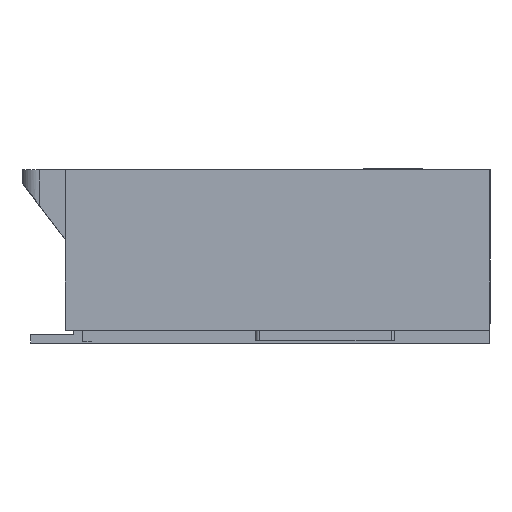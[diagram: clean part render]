
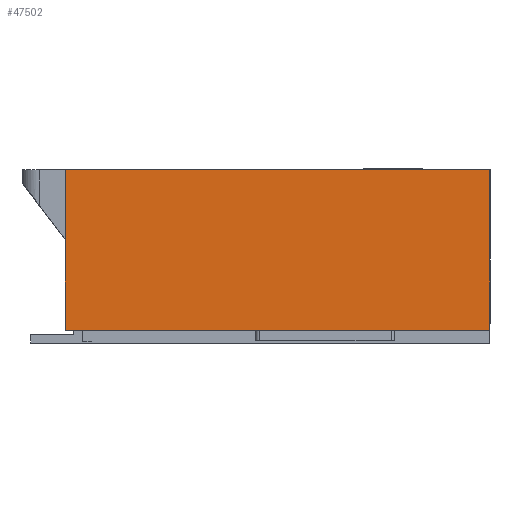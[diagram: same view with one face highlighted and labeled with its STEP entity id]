
A CAD part, left-side view. The second image highlights one B-rep face of the part: STEP entity #47502.
In plain terms, the highlighted planar face has unit normal (-1, 0, 0).
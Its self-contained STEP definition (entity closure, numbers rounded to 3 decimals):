
#3710 = ORIENTED_EDGE ( 'NONE', *, *, #21399, .T. ) ;
#4432 = ORIENTED_EDGE ( 'NONE', *, *, #52382, .T. ) ;
#4540 = CARTESIAN_POINT ( 'NONE',  ( -9.25, -0.25, 0. ) ) ;
#4967 = EDGE_CURVE ( 'NONE', #36375, #33015, #31126, .T. ) ;
#6600 = CARTESIAN_POINT ( 'NONE',  ( -9.25, -5.15, 2. ) ) ;
#7841 = CARTESIAN_POINT ( 'NONE',  ( -9.25, -5.15, 2. ) ) ;
#7972 = FACE_OUTER_BOUND ( 'NONE', #13871, .T. ) ;
#7983 = LINE ( 'NONE', #4540, #50846 ) ;
#8878 = DIRECTION ( 'NONE',  ( 0., 0., 1. ) ) ;
#9971 = DIRECTION ( 'NONE',  ( 1., 0., 0. ) ) ;
#13871 = EDGE_LOOP ( 'NONE', ( #4432, #24808, #3710, #14890 ) ) ;
#14123 = CARTESIAN_POINT ( 'NONE',  ( -9.25, -5.15, 0.15 ) ) ;
#14492 = CARTESIAN_POINT ( 'NONE',  ( -9.25, -0.25, 0.15 ) ) ;
#14890 = ORIENTED_EDGE ( 'NONE', *, *, #48203, .T. ) ;
#17627 = PLANE ( 'NONE',  #27457 ) ;
#18256 = CARTESIAN_POINT ( 'NONE',  ( -9.25, -5.15, 0. ) ) ;
#21399 = EDGE_CURVE ( 'NONE', #33015, #23725, #35017, .T. ) ;
#23725 = VERTEX_POINT ( 'NONE', #49270 ) ;
#24271 = CARTESIAN_POINT ( 'NONE',  ( -9.25, -0.25, 0.15 ) ) ;
#24808 = ORIENTED_EDGE ( 'NONE', *, *, #4967, .T. ) ;
#27457 = AXIS2_PLACEMENT_3D ( 'NONE', #31384, #9971, #53514 ) ;
#30542 = DIRECTION ( 'NONE',  ( 0., 0., -1. ) ) ;
#31126 = LINE ( 'NONE', #18256, #52100 ) ;
#31384 = CARTESIAN_POINT ( 'NONE',  ( -9.25, 0., 0. ) ) ;
#33015 = VERTEX_POINT ( 'NONE', #6600 ) ;
#35017 = LINE ( 'NONE', #7841, #45416 ) ;
#36375 = VERTEX_POINT ( 'NONE', #14123 ) ;
#37525 = DIRECTION ( 'NONE',  ( 0., -1., 0. ) ) ;
#37641 = VERTEX_POINT ( 'NONE', #24271 ) ;
#44343 = DIRECTION ( 'NONE',  ( 0., 1., 0. ) ) ;
#45127 = LINE ( 'NONE', #14492, #51529 ) ;
#45416 = VECTOR ( 'NONE', #44343, 1000. ) ;
#47502 = ADVANCED_FACE ( 'NONE', ( #7972 ), #17627, .F. ) ;
#48203 = EDGE_CURVE ( 'NONE', #23725, #37641, #7983, .T. ) ;
#49270 = CARTESIAN_POINT ( 'NONE',  ( -9.25, -0.25, 2. ) ) ;
#50846 = VECTOR ( 'NONE', #30542, 1000. ) ;
#51529 = VECTOR ( 'NONE', #37525, 1000. ) ;
#52100 = VECTOR ( 'NONE', #8878, 1000. ) ;
#52382 = EDGE_CURVE ( 'NONE', #37641, #36375, #45127, .T. ) ;
#53514 = DIRECTION ( 'NONE',  ( 0., 1., 0. ) ) ;
